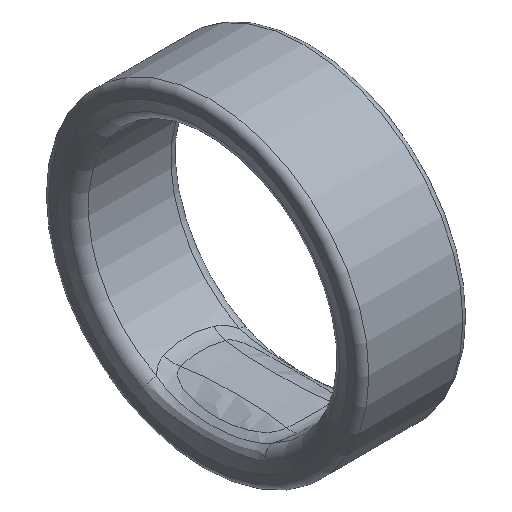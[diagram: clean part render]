
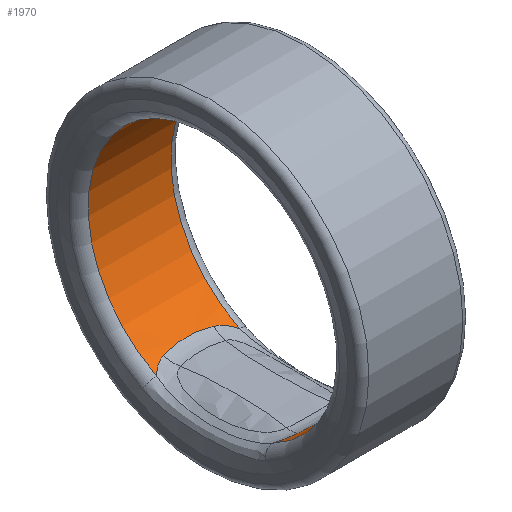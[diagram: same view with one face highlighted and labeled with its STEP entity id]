
A CAD part, isometric view. The second image highlights one B-rep face of the part: STEP entity #1970.
In plain terms, the highlighted cylindrical face has radius 9.559 mm (diameter 19.118 mm), a partial arc.
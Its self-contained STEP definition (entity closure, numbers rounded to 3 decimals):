
#243=CYLINDRICAL_SURFACE('',#2113,9.559);
#257=B_SPLINE_CURVE_WITH_KNOTS('',3,(#2516,#2517,#2518,#2519),
 .UNSPECIFIED.,.F.,.F.,(4,4),(0.,0.139),
 .UNSPECIFIED.);
#258=B_SPLINE_CURVE_WITH_KNOTS('',3,(#2521,#2522,#2523,#2524),
 .UNSPECIFIED.,.F.,.F.,(4,4),(0.,0.385),
 .UNSPECIFIED.);
#259=B_SPLINE_CURVE_WITH_KNOTS('',3,(#2526,#2527,#2528,#2529),
 .UNSPECIFIED.,.F.,.F.,(4,4),(0.916,1.054),
 .UNSPECIFIED.);
#260=B_SPLINE_CURVE_WITH_KNOTS('',3,(#2533,#2534,#2535,#2536),
 .UNSPECIFIED.,.F.,.F.,(4,4),(0.,0.139),
 .UNSPECIFIED.);
#261=B_SPLINE_CURVE_WITH_KNOTS('',3,(#2538,#2539,#2540,#2541),
 .UNSPECIFIED.,.F.,.F.,(4,4),(0.,0.385),
 .UNSPECIFIED.);
#262=B_SPLINE_CURVE_WITH_KNOTS('',3,(#2542,#2543,#2544,#2545),
 .UNSPECIFIED.,.F.,.F.,(4,4),(0.915,1.054),
 .UNSPECIFIED.);
#520=FACE_OUTER_BOUND('',#642,.T.);
#642=EDGE_LOOP('',(#1345,#1346,#1347,#1348,#1349,#1350,#1351,#1352));
#777=CIRCLE('',#2110,9.559);
#780=CIRCLE('',#2114,9.559);
#817=VERTEX_POINT('',#2439);
#818=VERTEX_POINT('',#2441);
#821=VERTEX_POINT('',#2515);
#822=VERTEX_POINT('',#2520);
#823=VERTEX_POINT('',#2525);
#824=VERTEX_POINT('',#2530);
#825=VERTEX_POINT('',#2532);
#826=VERTEX_POINT('',#2537);
#1023=EDGE_CURVE('',#817,#818,#777,.T.);
#1029=EDGE_CURVE('',#821,#817,#257,.T.);
#1030=EDGE_CURVE('',#822,#821,#258,.T.);
#1031=EDGE_CURVE('',#823,#822,#259,.T.);
#1032=EDGE_CURVE('',#824,#823,#780,.T.);
#1033=EDGE_CURVE('',#825,#824,#260,.T.);
#1034=EDGE_CURVE('',#826,#825,#261,.T.);
#1035=EDGE_CURVE('',#818,#826,#262,.T.);
#1345=ORIENTED_EDGE('',*,*,#1023,.F.);
#1346=ORIENTED_EDGE('',*,*,#1029,.F.);
#1347=ORIENTED_EDGE('',*,*,#1030,.F.);
#1348=ORIENTED_EDGE('',*,*,#1031,.F.);
#1349=ORIENTED_EDGE('',*,*,#1032,.F.);
#1350=ORIENTED_EDGE('',*,*,#1033,.F.);
#1351=ORIENTED_EDGE('',*,*,#1034,.F.);
#1352=ORIENTED_EDGE('',*,*,#1035,.F.);
#1970=ADVANCED_FACE('',(#520),#243,.F.);
#2110=AXIS2_PLACEMENT_3D('',#2442,#2193,#2194);
#2113=AXIS2_PLACEMENT_3D('',#2514,#2199,#2200);
#2114=AXIS2_PLACEMENT_3D('',#2531,#2201,#2202);
#2193=DIRECTION('center_axis',(1.,0.,0.));
#2194=DIRECTION('ref_axis',(0.,0.,1.));
#2199=DIRECTION('center_axis',(1.,0.,0.));
#2200=DIRECTION('ref_axis',(0.,0.,
1.));
#2201=DIRECTION('center_axis',(-1.,0.,0.));
#2202=DIRECTION('ref_axis',(0.,0.,1.));
#2439=CARTESIAN_POINT('',(-3.123,4.369,-8.502));
#2441=CARTESIAN_POINT('',(-3.123,-4.369,-8.502));
#2442=CARTESIAN_POINT('Origin',(-3.123,0.,
0.));
#2514=CARTESIAN_POINT('Origin',(3.993,0.,0.));
#2515=CARTESIAN_POINT('',(-1.912,5.085,-8.094));
#2516=CARTESIAN_POINT('Ctrl Pts',(-1.912,5.085,-8.094));
#2517=CARTESIAN_POINT('Ctrl Pts',(-2.367,4.988,-8.153));
#2518=CARTESIAN_POINT('Ctrl Pts',(-2.79,4.733,-8.316));
#2519=CARTESIAN_POINT('Ctrl Pts',(-3.123,4.369,-8.502));
#2520=CARTESIAN_POINT('',(1.915,5.085,-8.094));
#2521=CARTESIAN_POINT('Ctrl Pts',(1.915,5.085,-8.094));
#2522=CARTESIAN_POINT('Ctrl Pts',(0.658,5.37,-7.915));
#2523=CARTESIAN_POINT('Ctrl Pts',(-0.655,5.37,-7.915));
#2524=CARTESIAN_POINT('Ctrl Pts',(-1.912,5.085,-8.094));
#2525=CARTESIAN_POINT('',(3.122,4.373,-8.5));
#2526=CARTESIAN_POINT('Ctrl Pts',(3.12,4.372,-8.501));
#2527=CARTESIAN_POINT('Ctrl Pts',(2.787,4.734,-8.314));
#2528=CARTESIAN_POINT('Ctrl Pts',(2.375,4.991,-8.152));
#2529=CARTESIAN_POINT('Ctrl Pts',(1.915,5.085,-8.094));
#2530=CARTESIAN_POINT('',(3.122,-4.373,-8.5));
#2531=CARTESIAN_POINT('Origin',(3.122,0.,0.));
#2532=CARTESIAN_POINT('',(1.915,-5.085,-8.094));
#2533=CARTESIAN_POINT('Ctrl Pts',(1.915,-5.085,-8.094));
#2534=CARTESIAN_POINT('Ctrl Pts',(2.369,-4.989,-8.153));
#2535=CARTESIAN_POINT('Ctrl Pts',(2.79,-4.735,-8.315));
#2536=CARTESIAN_POINT('Ctrl Pts',(3.122,-4.373,-8.5));
#2537=CARTESIAN_POINT('',(-1.912,-5.085,-8.094));
#2538=CARTESIAN_POINT('Ctrl Pts',(-1.912,-5.085,-8.094));
#2539=CARTESIAN_POINT('Ctrl Pts',(-0.655,-5.365,
-7.914));
#2540=CARTESIAN_POINT('Ctrl Pts',(0.658,-5.365,-7.914));
#2541=CARTESIAN_POINT('Ctrl Pts',(1.915,-5.085,-8.094));
#2542=CARTESIAN_POINT('Ctrl Pts',(-3.121,-4.368,-8.503));
#2543=CARTESIAN_POINT('Ctrl Pts',(-2.787,-4.732,-8.316));
#2544=CARTESIAN_POINT('Ctrl Pts',(-2.374,-4.99,-8.153));
#2545=CARTESIAN_POINT('Ctrl Pts',(-1.912,-5.085,-8.094));
